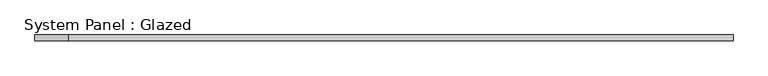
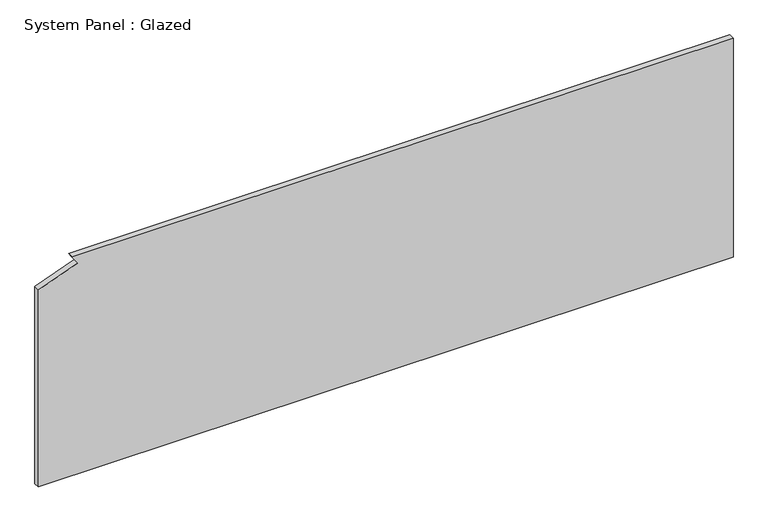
"""IFC4 building model written with IfcOpenShell, lengths in millimetres: plate geometry, System Panel : Glazed."""

from ifc_helpers import new_model, si_unit, frame, origin, place, context, project, spatial, polyline, outline, extrude, source, transform, mapped, element, save


def system_panel_glazed_af818185(model_context):
    return source(origin(), model_context, "Body", "SweptSolid", [
        extrude(outline(polyline([(0.0, -1504.95), (0.0, 1504.95), (1003.3, 1504.95), (1003.3, -1358.9433158), (967.0911062, -1333.6222369), (903.2554026, -1504.95), (0.0, -1504.95)])), frame((0.0, 19.05, 0.0), z_axis=(0.0, 1.0, 0.0), x_axis=(0.0, 0.0, 1.0)), (0.0, 0.0, 1.0), 25.4),
    ])


if __name__ == "__main__":
    model = new_model("IFC4")
    model_context = context("Model", 3, world=origin())
    ifc_project = project(units=[si_unit("LENGTHUNIT", "METRE", prefix="MILLI")], contexts=[model_context])
    site = spatial("IfcSite", under=ifc_project)
    building = spatial("IfcBuilding", under=site)
    placement = place(None, origin())
    system_panel_glazed_shape = system_panel_glazed_af818185(model_context)
    element("IfcPlate", 1, ObjectType="System Panel : Glazed", at=placement, inside=building, context=model_context, shape_type="MappedRepresentation", body=[
        mapped(system_panel_glazed_shape, transform((0.0, 0.0, 0.0), x_axis=(1.0, 0.0, 0.0), y_axis=(0.0, 1.0, 0.0), z_axis=(0.0, 0.0, 1.0))),
    ])
    save(model, "model.ifc")
